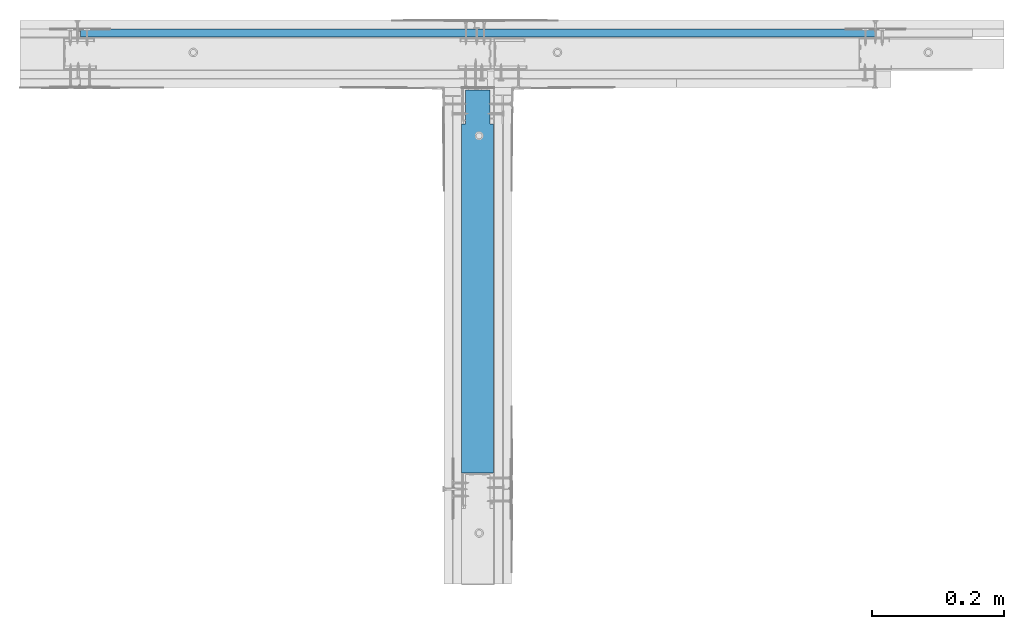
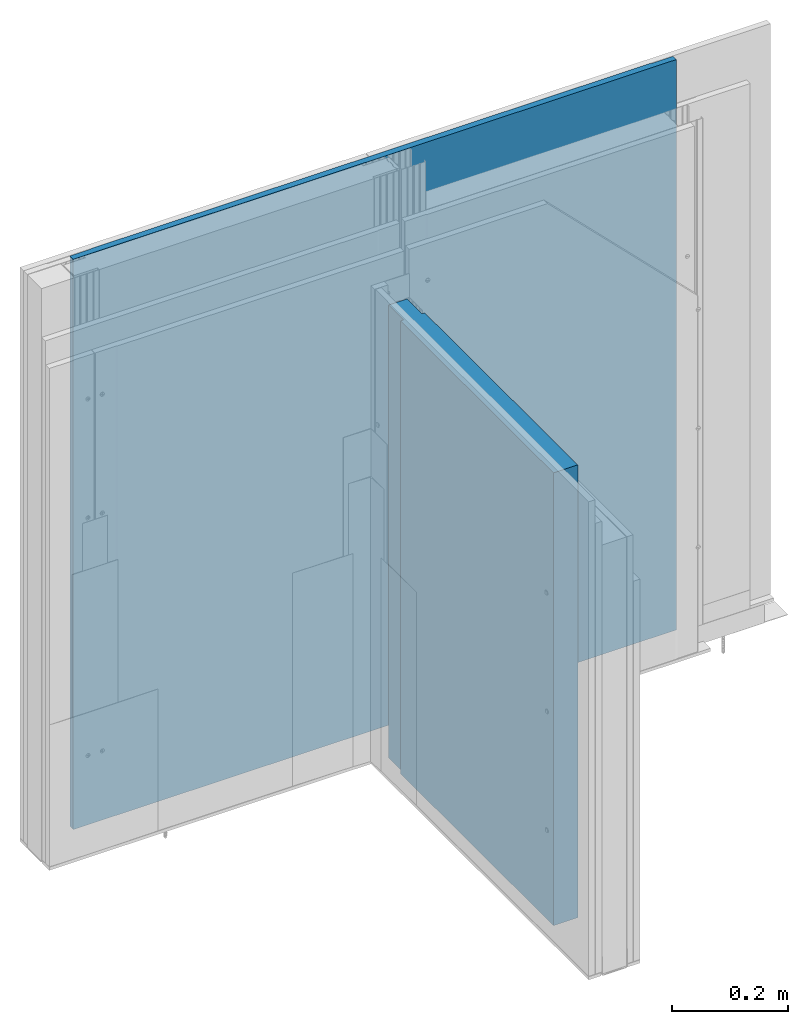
# One storey, part 1 of 95: 2 walls.
"""IFC2X3 building model written with IfcOpenShell, lengths in millimetres."""

from ifc_helpers import new_model, entity, si_unit, converted_unit, direction, frame, origin, origin_with_axes, place, context, project, spatial, faceted_brep, element, save


model = new_model("IFC2X3")

# Units and contexts
model_context = context("Model", 3, precision=1e-05, world=origin(), true_north=direction((0.0, 1.0, 0.0)))
ifc_project = project(units=[si_unit("LENGTHUNIT", "METRE", prefix="MILLI"), si_unit("AREAUNIT", "SQUARE_METRE"), si_unit("VOLUMEUNIT", "CUBIC_METRE"), converted_unit("PLANEANGLEUNIT", "DEGREE", entity("IfcPlaneAngleMeasure", 0.01745), si_unit("PLANEANGLEUNIT", "RADIAN"), dimensions=[0, 0, 0, 0, 0, 0, 0]), si_unit("SOLIDANGLEUNIT", "STERADIAN"), si_unit("MASSUNIT", "GRAM"), si_unit("TIMEUNIT", "SECOND"), si_unit("THERMODYNAMICTEMPERATUREUNIT", "DEGREE_CELSIUS"), si_unit("LUMINOUSINTENSITYUNIT", "LUMEN")], contexts=[model_context])

# Site, building, storey
site_placement = place(None, origin_with_axes())
site = spatial("IfcSite", under=ifc_project, at=site_placement, Name="Default Site", CompositionType="ELEMENT")
building_placement = place(site_placement, origin_with_axes())
building = spatial("IfcBuilding", under=site, at=building_placement, Name="Default Building", CompositionType="ELEMENT")
storey_placement = place(building_placement, origin_with_axes())
storey = spatial("IfcBuildingStorey", under=building, at=storey_placement, Name="Default Building Storey", CompositionType="ELEMENT", Elevation=0.0)

# Walls
wall_1_placement = place(storey_placement, frame((6271.778123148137, 1857.295223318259, 8.659213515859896), z_axis=(-6.598705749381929e-14, 5.938835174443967e-13, 1.0), x_axis=(4.440892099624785e-16, -1.0, 7.919791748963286e-13)))
element("IfcWall", 1, at=wall_1_placement, inside=storey, Name="Wełna mineralna szklana lub skalna ISOVER", context=model_context, shape_type="Brep", body=[
    faceted_brep([(-161.2775660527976, -3473.633223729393, -3.060216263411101), (-161.2775660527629, -3473.633223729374, 949.5897837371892), (-109.9235473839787, -3473.633223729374, 949.5897837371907), (-109.9235473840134, -3473.633223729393, -3.06021626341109), (-109.9235473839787, -3479.633223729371, 949.5897837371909), (-109.9235473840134, -3479.633223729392, -3.060216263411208), (-161.2775660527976, -3436.833223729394, -3.060216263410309), (-161.2775660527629, -3436.833223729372, 949.5897837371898), (-109.9235473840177, -3436.833223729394, -3.060216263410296), (-109.923547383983, -3436.833223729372, 949.5897837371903), (-109.9235473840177, -3431.283223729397, -3.060216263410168), (417.5745403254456, -3431.283223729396, -3.060216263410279), (417.574540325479, -3431.283223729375, 949.5897837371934), (-109.923547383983, -3431.283223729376, 949.5897837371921), (417.5745403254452, -3479.633223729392, -3.060216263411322), (417.5745403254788, -3479.63322372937, 949.5897837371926)], [[[0, 1, 2, 3]], [[3, 2, 4, 5]], [[1, 0, 6, 7]], [[7, 6, 8, 9]], [[10, 11, 12, 13]], [[9, 8, 10, 13]], [[3, 5, 14, 11, 10, 8, 6, 0]], [[4, 15, 14, 5]], [[15, 4, 2, 1, 7, 9, 13, 12]], [[14, 15, 12, 11]]]),
])
wall_2_placement = place(storey_placement, frame((2216.544899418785, 2098.101767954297, 1033.9739172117), z_axis=(0.0, 0.0, 1.0), x_axis=(1.0, 6.389333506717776e-13, 0.0)))
element("IfcWall", 2, at=wall_2_placement, inside=storey, Name="Płyta gipsowo-kartonowa RIGIPS PRO (4PRO™)", context=model_context, shape_type="Brep", body=[
    faceted_brep([(1199.866025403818, 10.99999999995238, 176.0260827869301), (1199.965925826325, 10.75881904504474, 176.0260827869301), (1199.965925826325, 10.75881904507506, -1023.975498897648), (1199.866025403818, 10.9999999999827, -1023.975498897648), (1199.707106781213, 11.20710678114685, 176.0260827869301), (1199.707106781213, 11.20710678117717, -1023.975498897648), (1199.50000000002, 11.36602540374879, 176.0260827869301), (1199.50000000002, 11.36602540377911, -1023.975498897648), (1199.258819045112, 11.46592582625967, 176.0260827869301), (1199.258819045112, 11.46592582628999, -1023.975498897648), (1199.0, 11.49999999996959, 176.0260827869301), (1199.0, 11.49999999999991, -1023.975498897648), (1158.999999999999, 11.49999999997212, 176.0260827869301), (1158.999999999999, 11.50000000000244, -1023.975498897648), (1155.0, 12.49999999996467, 176.0260827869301), (1155.0, 12.49999999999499, -1023.975498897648), (44.99999999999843, 12.49999999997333, 176.0260827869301), (44.99999999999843, 12.50000000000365, -1023.975498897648), (40.99999999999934, 11.49999999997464, 176.0260827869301), (40.99999999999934, 11.50000000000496, -1023.975498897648), (0.9999999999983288, 11.499999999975, 176.0260827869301), (0.9999999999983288, 11.50000000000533, -1023.975498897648), (0.7411809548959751, 11.46592582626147, 176.0260827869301), (0.7411809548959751, 11.46592582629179, -1023.975498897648), (0.4999999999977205, 11.3660254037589, 176.0260827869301), (0.4999999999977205, 11.36602540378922, -1023.975498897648), (0.2928932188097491, 11.20710678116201, 176.0260827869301), (0.2928932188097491, 11.20710678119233, -1023.975498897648), (0.1339745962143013, 10.99999999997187, 176.0260827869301), (0.1339745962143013, 11.00000000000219, -1023.975498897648), (0.03407417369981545, 10.75881904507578, 176.0260827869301), (0.03407417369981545, 10.7588190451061, -1023.975498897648), (-3.609557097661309e-12, 10.49999999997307, 176.0260827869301), (-3.609557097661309e-12, 10.50000000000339, -1023.975498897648), (0.0, -3.032027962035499e-11, 176.0260827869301), (0.0, 0.0, -1023.975498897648), (1199.999999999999, -3.032027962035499e-11, 176.0260827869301), (1199.999999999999, 0.0, -1023.975498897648), (1200.00000000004, 10.49999999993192, 176.0260827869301), (1200.00000000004, 10.49999999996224, -1023.975498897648)], [[[0, 1, 2, 3]], [[4, 0, 3, 5]], [[6, 4, 5, 7]], [[8, 6, 7, 9]], [[10, 8, 9, 11]], [[12, 10, 11, 13]], [[14, 12, 13, 15]], [[16, 14, 15, 17]], [[18, 16, 17, 19]], [[20, 18, 19, 21]], [[22, 20, 21, 23]], [[24, 22, 23, 25]], [[26, 24, 25, 27]], [[28, 26, 27, 29]], [[30, 28, 29, 31]], [[32, 30, 31, 33]], [[34, 32, 33, 35]], [[36, 34, 35, 37]], [[38, 36, 37, 39]], [[1, 38, 39, 2]], [[2, 39, 37, 35, 33, 31, 29, 27, 25, 23, 21, 19, 17, 15, 13, 11, 9, 7, 5, 3]], [[12, 14, 16, 18, 20, 22, 24, 26, 28, 30, 32, 34, 36, 38, 1, 0, 4, 6, 8, 10]]]),
])

save(model, "model.ifc")
